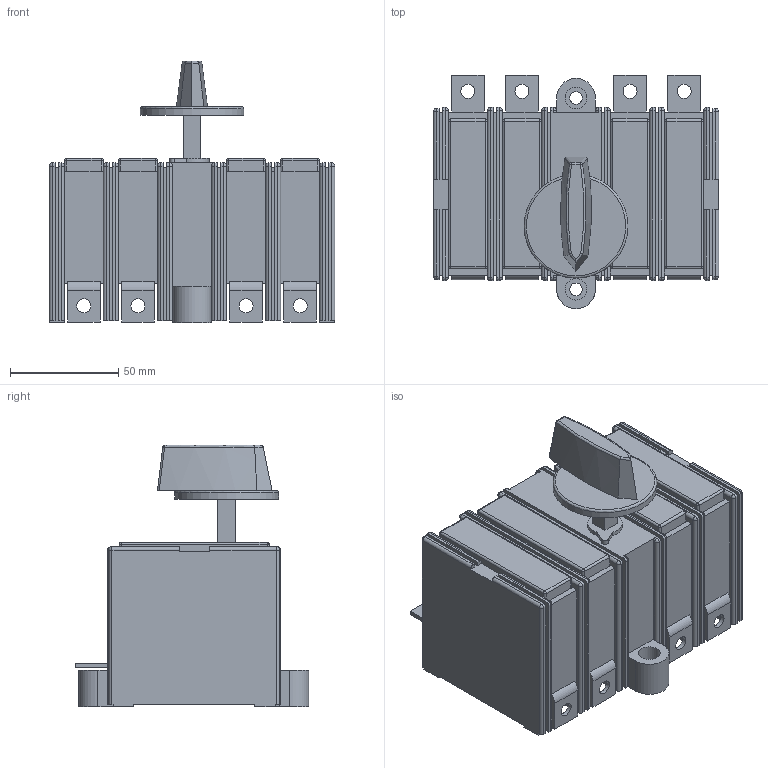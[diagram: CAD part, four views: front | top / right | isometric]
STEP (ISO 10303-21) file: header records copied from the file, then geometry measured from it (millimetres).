
FILE_DESCRIPTION(/* description */ (''),/* implementation_level */ '2;1');
FILE_NAME(/* name */ 'RA100 P3 NB-R, RA100 P4 B-R.stp',/* time_stamp */ '2021-08-17T12:48:42+02:00',/* author */ (''),/* organization */ (''),/* preprocessor_version */ 'ST-DEVELOPER v18.1',/* originating_system */ 'SIEMENS PLM Software NX 1965',/* authorisation */ '');
FILE_SCHEMA (('FEATURE_BASED_PROCESS_PLANNING','PROCESS_PLANNING_SCHEMA'));
Length unit declared in the file: millimetre
Products named in the file (1): RA100 P3 NB-R, RA100 P4 B-R_stp
Bounding box: 132 x 108 x 121 mm (x, y, z)
Volume: 677226.6 mm3; surface area: 83945.4 mm2
Topology: 1 solids, 1 shells, 398 faces, 1066 edges, 633 vertices
Faces by surface type: plane 223, cylinder 126, sphere 41, bspline 7, torus 1
Full cylindrical faces by diameter (mm): 5.8 x2, 6.5 x8, 10 x2, 48 x1
Entity records: 12028 total; most frequent: CARTESIAN_POINT 2274, DIRECTION 2026, ORIENTED_EDGE 2012, EDGE_CURVE 1006, LINE 732, VECTOR 732, AXIS2_PLACEMENT_3D 647, VERTEX_POINT 629
